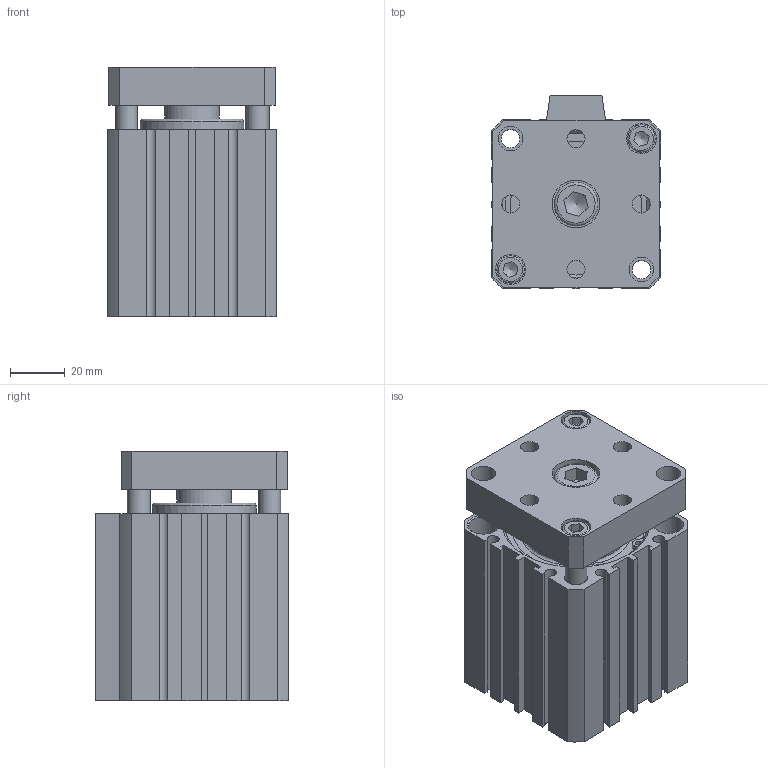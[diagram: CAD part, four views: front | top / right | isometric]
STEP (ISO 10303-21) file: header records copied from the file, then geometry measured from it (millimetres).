
FILE_DESCRIPTION((''),'2;1');
FILE_NAME('I:\3D電子目錄\氣缸\JTD\JTD\JTD50\JTD50x40.stp','2007-08-14T19:26:57',('Administrator'),(''),'Autodesk Inventor 11','Autodesk Inventor 11','');
FILE_SCHEMA(('AUTOMOTIVE_DESIGN { 1 0 10303 214 1 1 1 1 }'));
Length unit declared in the file: millimetre
Products named in the file (5): JTD50; R 形環 52; ISO 4762 M10 x 16; ISO 4762 M6 x 20
Assembly tree (6 placements, depth 2):
  JTD50
    JTD50
    R 形環 52  x2
    ISO 4762 M10 x 16
    ISO 4762 M6 x 20  x2
Bounding box: 62 x 71 x 91.6 mm (x, y, z)
Volume: 281584.9 mm3; surface area: 65652.5 mm2
Topology: 6 solids, 6 shells, 228 faces, 548 edges, 360 vertices
Faces by surface type: plane 135, cylinder 58, bspline 16, cone 14, torus 5
Full cylindrical faces by diameter (mm): 2.3 x4, 2.7 x2, 6 x2, 6.8 x2, 8 x2, 8.5 x3, 9 x2, 10 x3, 11 x4, 16 x1, 20 x1, 37 x1, 38 x1, 52 x4, 55 x2
Entity records: 5925 total; most frequent: CARTESIAN_POINT 1242, DIRECTION 938, ORIENTED_EDGE 844, EDGE_CURVE 422, AXIS2_PLACEMENT_3D 331, EDGE_LOOP 314, VERTEX_POINT 313, VECTOR 276
